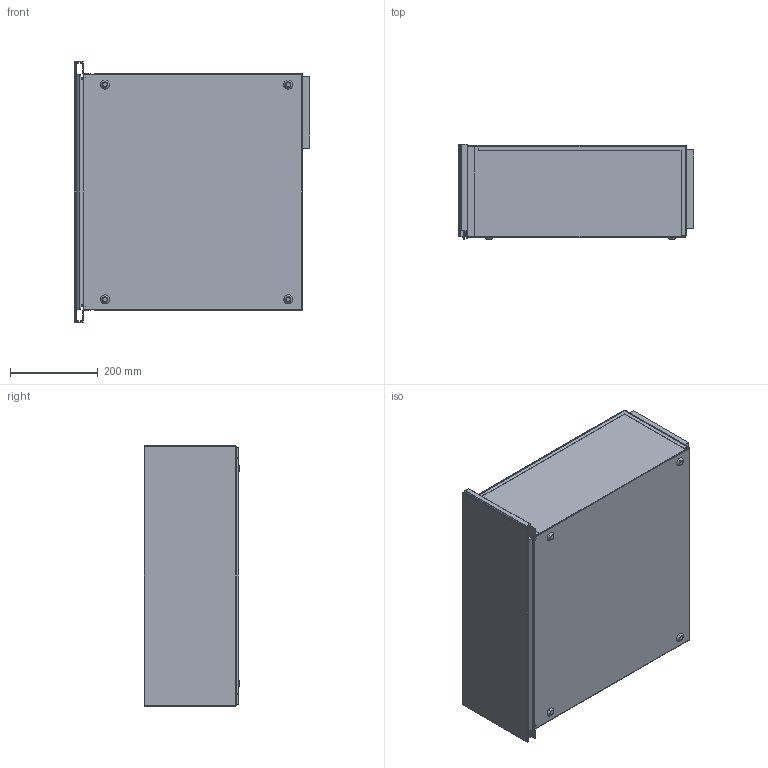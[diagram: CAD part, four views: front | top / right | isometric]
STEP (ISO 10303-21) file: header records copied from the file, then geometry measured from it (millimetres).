
FILE_DESCRIPTION(('CATIA V6 STEP','CAx-IF Rec.Pracs.--- Model Styling and Organization---1.2---2011-12-15'),'2;1');
FILE_NAME('P:\CATIA-UserDaten\3D Planungsdaten\WS-SS\WS_2015-04-16 aktualisiert fuer Albatros\X3401200022-A.stp','2015-04-16T06:26:57+00:00',('none'),('none'),'CATIA Unofficial Packaging Version','DASSAULT SYSTEMES CATIA V6 STEP AP214','none');
FILE_SCHEMA(('AUTOMOTIVE_DESIGN { 1 0 10303 214 1 1 1 1 }'));
Length unit declared in the file: millimetre
Products named in the file (1): 1005006-00
Bounding box: 537 x 218 x 596 mm (x, y, z)
Volume: 5875004.7 mm3; surface area: 3386710.2 mm2
Topology: 11 solids, 12 shells, 253 faces, 625 edges, 394 vertices
Faces by surface type: plane 144, cylinder 79, cone 16, torus 8, sphere 6
Entity records: 7326 total; most frequent: CARTESIAN_POINT 1488, ORIENTED_EDGE 1238, DIRECTION 1031, EDGE_CURVE 619, VECTOR 426, LINE 426, VERTEX_POINT 394, AXIS2_PLACEMENT_3D 382
